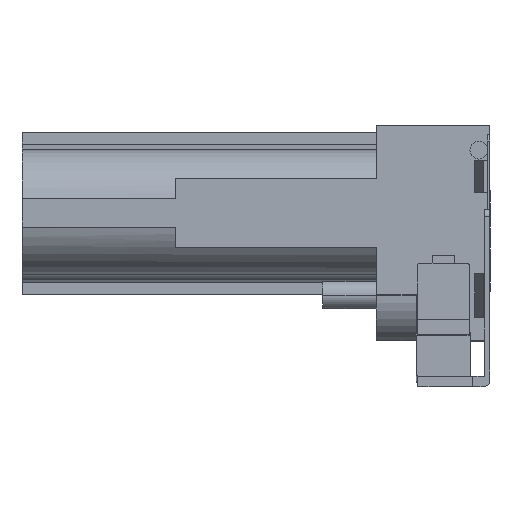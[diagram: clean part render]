
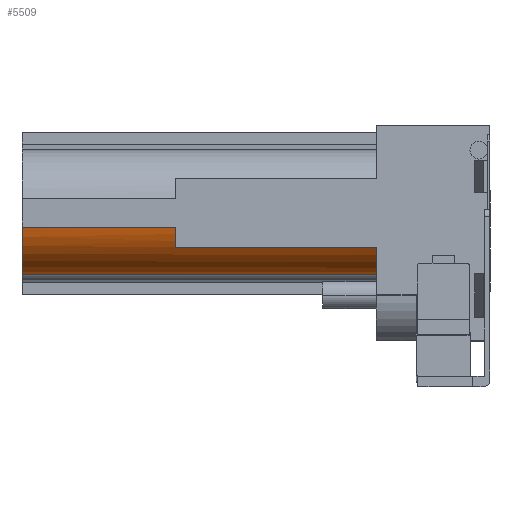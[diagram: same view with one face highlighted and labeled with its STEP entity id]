
A CAD part, front view. The second image highlights one B-rep face of the part: STEP entity #5509.
In plain terms, the highlighted cylindrical face has radius 23 mm (diameter 46 mm), a partial arc.
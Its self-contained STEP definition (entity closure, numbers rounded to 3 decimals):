
#129 = AXIS2_PLACEMENT_3D ( 'NONE', #2621, #2622, #2623 ) ;
#1449 = DIRECTION ( 'NONE',  ( 1., 0., 0. ) ) ;
#1450 = DIRECTION ( 'NONE',  ( -1., 0., 0. ) ) ;
#1451 = CARTESIAN_POINT ( 'NONE',  ( -169.95, 343.583, 13.593 ) ) ;
#1452 = CARTESIAN_POINT ( 'NONE',  ( -41.25, 321.149, 8.521 ) ) ;
#1455 = CARTESIAN_POINT ( 'NONE',  ( -41.25, 338.364, -8.807 ) ) ;
#1467 = DIRECTION ( 'NONE',  ( 0., -1., 0. ) ) ;
#1471 = DIRECTION ( 'NONE',  ( -1., 0., 0. ) ) ;
#2312 = FACE_OUTER_BOUND ( 'NONE', #3988, .T. ) ;
#2313 = CYLINDRICAL_SURFACE ( 'NONE', #129, 23. ) ;
#2621 = CARTESIAN_POINT ( 'NONE',  ( -41.25, 343.583, 13.593 ) ) ;
#2622 = DIRECTION ( 'NONE',  ( -1., 0., 0. ) ) ;
#2623 = DIRECTION ( 'NONE',  ( 0., -1., 0. ) ) ;
#2922 = CARTESIAN_POINT ( 'NONE',  ( -41.25, 324.193, 1.223 ) ) ;
#2923 = CARTESIAN_POINT ( 'NONE',  ( -41.25, 338.364, -8.807 ) ) ;
#2930 = CARTESIAN_POINT ( 'NONE',  ( -114.25, 324.193, 1.223 ) ) ;
#2933 = CARTESIAN_POINT ( 'NONE',  ( -114.25, 321.149, 8.521 ) ) ;
#2934 = CARTESIAN_POINT ( 'NONE',  ( -169.95, 321.149, 8.521 ) ) ;
#2935 = CARTESIAN_POINT ( 'NONE',  ( -169.95, 338.364, -8.807 ) ) ;
#3200 = ORIENTED_EDGE ( 'NONE', *, *, #4627, .F. ) ;
#3201 = ORIENTED_EDGE ( 'NONE', *, *, #4612, .F. ) ;
#3202 = ORIENTED_EDGE ( 'NONE', *, *, #4613, .T. ) ;
#3203 = ORIENTED_EDGE ( 'NONE', *, *, #4614, .T. ) ;
#3204 = ORIENTED_EDGE ( 'NONE', *, *, #4615, .F. ) ;
#3205 = ORIENTED_EDGE ( 'NONE', *, *, #4616, .F. ) ;
#3988 = EDGE_LOOP ( 'NONE', ( #3205, #3204, #3203, #3202, #3201, #3200 ) ) ;
#4165 = LINE ( 'NONE', #1455, #4166 ) ;
#4166 = VECTOR ( 'NONE', #1471, 1000. ) ;
#4167 = LINE ( 'NONE', #1452, #4169 ) ;
#4168 = CIRCLE ( 'NONE', #5110, 23. ) ;
#4169 = VECTOR ( 'NONE', #1450, 1000. ) ;
#4170 = LINE ( 'NONE', #5959, #4172 ) ;
#4171 = CIRCLE ( 'NONE', #5111, 23. ) ;
#4172 = VECTOR ( 'NONE', #5960, 1000. ) ;
#4192 = CIRCLE ( 'NONE', #5114, 23. ) ;
#4612 = EDGE_CURVE ( 'NONE', #6314, #6326, #4165, .T. ) ;
#4613 = EDGE_CURVE ( 'NONE', #6325, #6326, #4168, .T. ) ;
#4614 = EDGE_CURVE ( 'NONE', #6324, #6325, #4167, .T. ) ;
#4615 = EDGE_CURVE ( 'NONE', #6324, #6321, #4171, .T. ) ;
#4616 = EDGE_CURVE ( 'NONE', #6321, #6313, #4170, .T. ) ;
#4627 = EDGE_CURVE ( 'NONE', #6313, #6314, #4192, .T. ) ;
#5110 = AXIS2_PLACEMENT_3D ( 'NONE', #1451, #1449, #1467 ) ;
#5111 = AXIS2_PLACEMENT_3D ( 'NONE', #5957, #5956, #5958 ) ;
#5114 = AXIS2_PLACEMENT_3D ( 'NONE', #5948, #5946, #5955 ) ;
#5509 = ADVANCED_FACE ( 'NONE', ( #2312 ), #2313, .T. ) ;
#5946 = DIRECTION ( 'NONE',  ( 1., 0., 0. ) ) ;
#5948 = CARTESIAN_POINT ( 'NONE',  ( -41.25, 343.583, 13.593 ) ) ;
#5955 = DIRECTION ( 'NONE',  ( 0., -1., 0. ) ) ;
#5956 = DIRECTION ( 'NONE',  ( 1., 0., 0. ) ) ;
#5957 = CARTESIAN_POINT ( 'NONE',  ( -114.25, 343.583, 13.593 ) ) ;
#5958 = DIRECTION ( 'NONE',  ( 0., -1., 0. ) ) ;
#5959 = CARTESIAN_POINT ( 'NONE',  ( -114.25, 324.193, 1.223 ) ) ;
#5960 = DIRECTION ( 'NONE',  ( 1., 0., 0. ) ) ;
#6313 = VERTEX_POINT ( 'NONE', #2922 ) ;
#6314 = VERTEX_POINT ( 'NONE', #2923 ) ;
#6321 = VERTEX_POINT ( 'NONE', #2930 ) ;
#6324 = VERTEX_POINT ( 'NONE', #2933 ) ;
#6325 = VERTEX_POINT ( 'NONE', #2934 ) ;
#6326 = VERTEX_POINT ( 'NONE', #2935 ) ;
